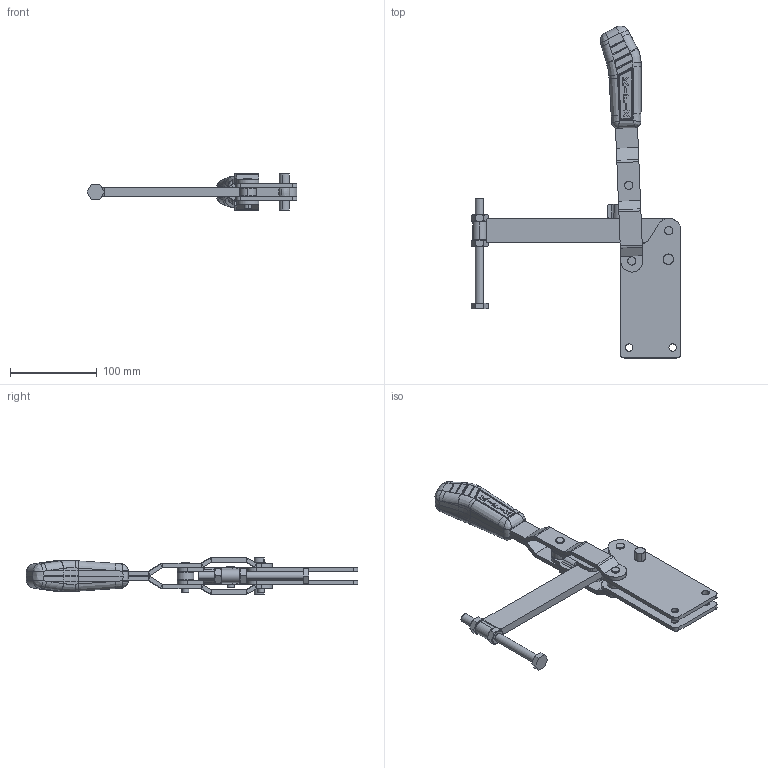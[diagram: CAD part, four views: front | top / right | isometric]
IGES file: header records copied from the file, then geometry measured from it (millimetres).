
Start section: SolidWorks IGES file using analytic representation for surfaces
Global section: file name: C:\Projetos\Grampos\KF-641\KF-641 RS\KF-641 RS.IGS; native system: SolidWorks 2013; preprocessor: SolidWorks 2013; author: Ricardo; date: 140813.174942; units: millimetre
Bounding box: 241.75 x 382.63 x 41.6 mm (x, y, z)
Surface area: 140797.3 mm2 (no closed solid volume)
Topology: 0 solids, 0 shells, 770 faces, 8470 edges, 8451 vertices
Faces by surface type: bspline 442, revolution 328
